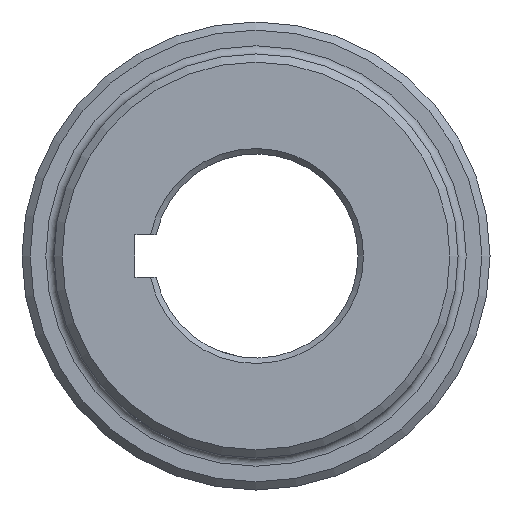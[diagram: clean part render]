
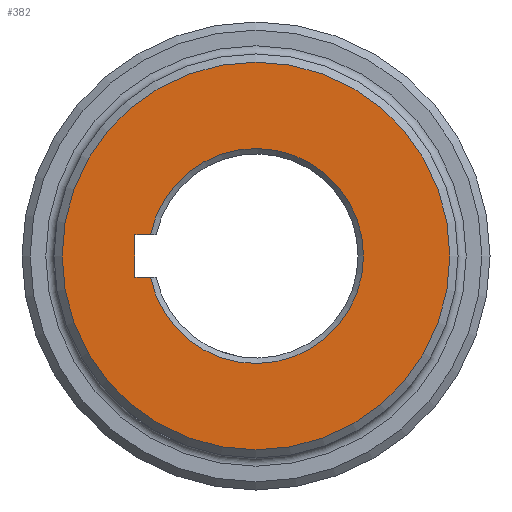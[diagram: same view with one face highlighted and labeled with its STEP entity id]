
A CAD part, left-side view. The second image highlights one B-rep face of the part: STEP entity #382.
In plain terms, the highlighted planar face has unit normal (-1, 0, 0).
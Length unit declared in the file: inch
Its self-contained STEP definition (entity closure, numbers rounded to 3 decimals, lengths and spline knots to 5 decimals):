
#99 = LINE ( 'NONE', #2017, #2135 ) ;
#103 = EDGE_CURVE ( 'NONE', #726, #1441, #1889, .T. ) ;
#109 = EDGE_CURVE ( 'NONE', #1634, #1634, #933, .T. ) ;
#222 = ORIENTED_EDGE ( 'NONE', *, *, #109, .T. ) ;
#305 = DIRECTION ( 'NONE',  ( 0., 0., -1. ) ) ;
#355 = AXIS2_PLACEMENT_3D ( 'NONE', #983, #623, #1549 ) ;
#382 = ADVANCED_FACE ( 'NONE', ( #1124, #423 ), #1611, .F. ) ;
#423 = FACE_BOUND ( 'NONE', #2183, .T. ) ;
#482 = CARTESIAN_POINT ( 'NONE',  ( 0., 0., 0.156 ) ) ;
#518 = EDGE_LOOP ( 'NONE', ( #222 ) ) ;
#531 = AXIS2_PLACEMENT_3D ( 'NONE', #1908, #1759, #910 ) ;
#559 = VECTOR ( 'NONE', #305, 39.37008 ) ;
#574 = CARTESIAN_POINT ( 'NONE',  ( 0., 0., 0. ) ) ;
#623 = DIRECTION ( 'NONE',  ( -1., 0., 0. ) ) ;
#626 = CARTESIAN_POINT ( 'NONE',  ( 0., 0., -1.425 ) ) ;
#655 = CARTESIAN_POINT ( 'NONE',  ( 0., 0.88975, 0.156 ) ) ;
#726 = VERTEX_POINT ( 'NONE', #655 ) ;
#748 = LINE ( 'NONE', #482, #1528 ) ;
#791 = DIRECTION ( 'NONE',  ( 0., 1., 0. ) ) ;
#798 = AXIS2_PLACEMENT_3D ( 'NONE', #574, #1664, #1389 ) ;
#910 = DIRECTION ( 'NONE',  ( 0., 0., -1. ) ) ;
#933 = CIRCLE ( 'NONE', #355, 1.425 ) ;
#968 = VERTEX_POINT ( 'NONE', #2216 ) ;
#982 = ORIENTED_EDGE ( 'NONE', *, *, #1085, .F. ) ;
#983 = CARTESIAN_POINT ( 'NONE',  ( 0., 0., 0. ) ) ;
#991 = CARTESIAN_POINT ( 'NONE',  ( 0., 0.7747, 0.156 ) ) ;
#1051 = ORIENTED_EDGE ( 'NONE', *, *, #1629, .T. ) ;
#1085 = EDGE_CURVE ( 'NONE', #1441, #968, #99, .T. ) ;
#1124 = FACE_OUTER_BOUND ( 'NONE', #518, .T. ) ;
#1163 = ORIENTED_EDGE ( 'NONE', *, *, #1264, .F. ) ;
#1174 = VERTEX_POINT ( 'NONE', #991 ) ;
#1264 = EDGE_CURVE ( 'NONE', #1174, #726, #748, .T. ) ;
#1389 = DIRECTION ( 'NONE',  ( 0., 0., -1. ) ) ;
#1411 = DIRECTION ( 'NONE',  ( 0., -1., 0. ) ) ;
#1441 = VERTEX_POINT ( 'NONE', #1934 ) ;
#1528 = VECTOR ( 'NONE', #791, 39.37008 ) ;
#1549 = DIRECTION ( 'NONE',  ( 0., 0., -1. ) ) ;
#1611 = PLANE ( 'NONE',  #531 ) ;
#1629 = EDGE_CURVE ( 'NONE', #1174, #968, #1685, .T. ) ;
#1634 = VERTEX_POINT ( 'NONE', #626 ) ;
#1664 = DIRECTION ( 'NONE',  ( 1., 0., 0. ) ) ;
#1685 = CIRCLE ( 'NONE', #798, 0.79025 ) ;
#1759 = DIRECTION ( 'NONE',  ( 1., 0., 0. ) ) ;
#1804 = ORIENTED_EDGE ( 'NONE', *, *, #103, .F. ) ;
#1889 = LINE ( 'NONE', #1923, #559 ) ;
#1908 = CARTESIAN_POINT ( 'NONE',  ( 0., 0., 0. ) ) ;
#1923 = CARTESIAN_POINT ( 'NONE',  ( 0., 0.88975, -0.156 ) ) ;
#1934 = CARTESIAN_POINT ( 'NONE',  ( 0., 0.88975, -0.156 ) ) ;
#2017 = CARTESIAN_POINT ( 'NONE',  ( 0., 0., -0.156 ) ) ;
#2135 = VECTOR ( 'NONE', #1411, 39.37008 ) ;
#2183 = EDGE_LOOP ( 'NONE', ( #1163, #1051, #982, #1804 ) ) ;
#2216 = CARTESIAN_POINT ( 'NONE',  ( 0., 0.7747, -0.156 ) ) ;
